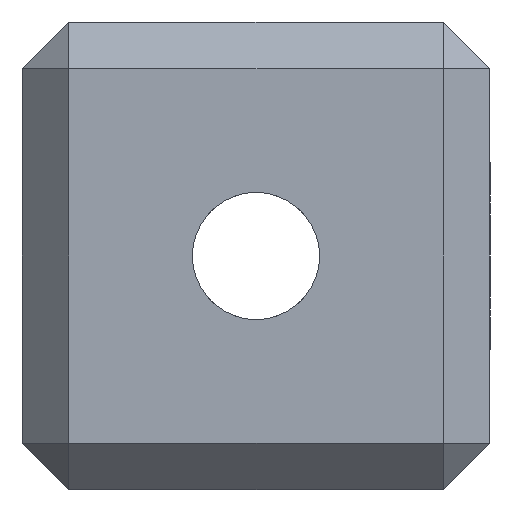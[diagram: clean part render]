
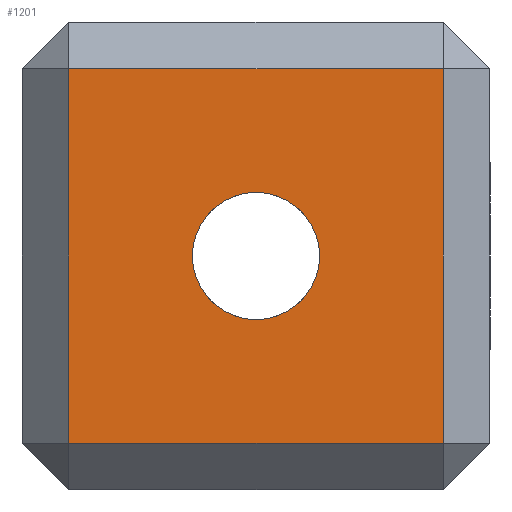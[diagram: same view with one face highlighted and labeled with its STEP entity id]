
A CAD part, left-side view. The second image highlights one B-rep face of the part: STEP entity #1201.
In plain terms, the highlighted planar face has unit normal (-1, 0, 0).
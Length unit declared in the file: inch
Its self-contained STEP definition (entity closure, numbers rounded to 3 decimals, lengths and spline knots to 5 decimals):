
#5 = EDGE_CURVE ( 'NONE', #695, #646, #512, .T. ) ;
#8 = DIRECTION ( 'NONE',  ( 0., -1., 0. ) ) ;
#89 = CARTESIAN_POINT ( 'NONE',  ( -0.875, 0.2, 0.45 ) ) ;
#111 = CARTESIAN_POINT ( 'NONE',  ( -0.875, 0.25, 0.05 ) ) ;
#171 = VECTOR ( 'NONE', #248, 39.37008 ) ;
#172 = DIRECTION ( 'NONE',  ( -1., 0., 0. ) ) ;
#180 = ORIENTED_EDGE ( 'NONE', *, *, #1267, .F. ) ;
#222 = DIRECTION ( 'NONE',  ( 0., 0., -1. ) ) ;
#248 = DIRECTION ( 'NONE',  ( 0., 0., -1. ) ) ;
#265 = VERTEX_POINT ( 'NONE', #1364 ) ;
#288 = FACE_BOUND ( 'NONE', #957, .T. ) ;
#297 = AXIS2_PLACEMENT_3D ( 'NONE', #1132, #394, #1265 ) ;
#394 = DIRECTION ( 'NONE',  ( -1., 0., 0. ) ) ;
#398 = CARTESIAN_POINT ( 'NONE',  ( -0.875, -0.2, 0.05 ) ) ;
#422 = AXIS2_PLACEMENT_3D ( 'NONE', #835, #1345, #599 ) ;
#471 = PLANE ( 'NONE',  #422 ) ;
#511 = CARTESIAN_POINT ( 'NONE',  ( -0.875, 0.2, 0.5 ) ) ;
#512 = LINE ( 'NONE', #511, #171 ) ;
#547 = CARTESIAN_POINT ( 'NONE',  ( -0.875, 0., 0.182 ) ) ;
#559 = EDGE_LOOP ( 'NONE', ( #180, #937, #643, #766 ) ) ;
#572 = VECTOR ( 'NONE', #8, 39.37008 ) ;
#592 = FACE_OUTER_BOUND ( 'NONE', #559, .T. ) ;
#599 = DIRECTION ( 'NONE',  ( 0., 0., -1. ) ) ;
#643 = ORIENTED_EDGE ( 'NONE', *, *, #5, .T. ) ;
#646 = VERTEX_POINT ( 'NONE', #819 ) ;
#695 = VERTEX_POINT ( 'NONE', #89 ) ;
#738 = VECTOR ( 'NONE', #222, 39.37008 ) ;
#763 = VERTEX_POINT ( 'NONE', #1468 ) ;
#766 = ORIENTED_EDGE ( 'NONE', *, *, #1257, .F. ) ;
#819 = CARTESIAN_POINT ( 'NONE',  ( -0.875, 0.2, 0.05 ) ) ;
#835 = CARTESIAN_POINT ( 'NONE',  ( -0.875, 0.25, 0.5 ) ) ;
#851 = DIRECTION ( 'NONE',  ( 0., 1., 0. ) ) ;
#869 = ORIENTED_EDGE ( 'NONE', *, *, #894, .F. ) ;
#892 = LINE ( 'NONE', #999, #572 ) ;
#894 = EDGE_CURVE ( 'NONE', #265, #896, #1018, .T. ) ;
#896 = VERTEX_POINT ( 'NONE', #547 ) ;
#910 = CARTESIAN_POINT ( 'NONE',  ( -0.875, 0., 0.25 ) ) ;
#937 = ORIENTED_EDGE ( 'NONE', *, *, #1348, .F. ) ;
#957 = EDGE_LOOP ( 'NONE', ( #1041, #869 ) ) ;
#976 = CARTESIAN_POINT ( 'NONE',  ( -0.875, -0.2, 0.5 ) ) ;
#999 = CARTESIAN_POINT ( 'NONE',  ( -0.875, 0.25, 0.45 ) ) ;
#1018 = CIRCLE ( 'NONE', #1589, 0.068 ) ;
#1041 = ORIENTED_EDGE ( 'NONE', *, *, #1366, .F. ) ;
#1047 = DIRECTION ( 'NONE',  ( 0., 0., -1. ) ) ;
#1056 = LINE ( 'NONE', #976, #738 ) ;
#1132 = CARTESIAN_POINT ( 'NONE',  ( -0.875, 0., 0.25 ) ) ;
#1201 = ADVANCED_FACE ( 'NONE', ( #592, #288 ), #471, .F. ) ;
#1239 = CIRCLE ( 'NONE', #297, 0.068 ) ;
#1257 = EDGE_CURVE ( 'NONE', #1411, #646, #1500, .T. ) ;
#1265 = DIRECTION ( 'NONE',  ( 0., 0., -1. ) ) ;
#1267 = EDGE_CURVE ( 'NONE', #763, #1411, #1056, .T. ) ;
#1345 = DIRECTION ( 'NONE',  ( 1., 0., 0. ) ) ;
#1348 = EDGE_CURVE ( 'NONE', #695, #763, #892, .T. ) ;
#1364 = CARTESIAN_POINT ( 'NONE',  ( -0.875, 0., 0.318 ) ) ;
#1366 = EDGE_CURVE ( 'NONE', #896, #265, #1239, .T. ) ;
#1411 = VERTEX_POINT ( 'NONE', #398 ) ;
#1468 = CARTESIAN_POINT ( 'NONE',  ( -0.875, -0.2, 0.45 ) ) ;
#1500 = LINE ( 'NONE', #111, #1566 ) ;
#1566 = VECTOR ( 'NONE', #851, 39.37008 ) ;
#1589 = AXIS2_PLACEMENT_3D ( 'NONE', #910, #172, #1047 ) ;
